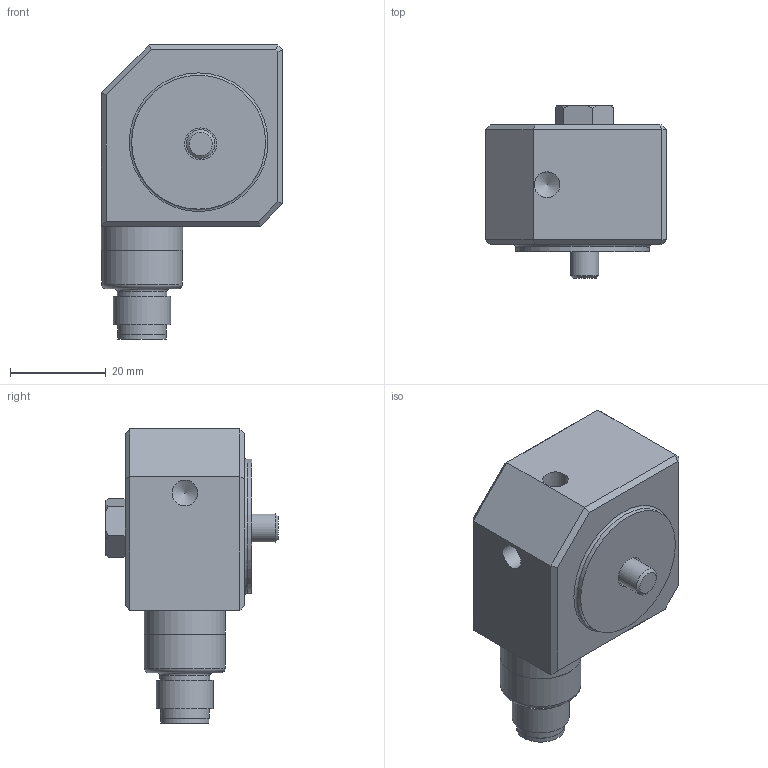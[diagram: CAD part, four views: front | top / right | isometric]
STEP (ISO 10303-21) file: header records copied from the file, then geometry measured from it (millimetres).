
FILE_DESCRIPTION(/* description */ (''),/* implementation_level */ '2;1');
FILE_NAME(/* name */ 'Z:\Engineering\Drawings\3D Library\Assemblies\Website\HS-183XXX5406.stp',/* time_stamp */ '2023-03-25T20:16:04+00:00',/* author */ ('Ricardo.Peneda'),/* organization */ (''),/* preprocessor_version */ 'ST-DEVELOPER v18.1',/* originating_system */ 'Autodesk Inventor 2021',/* authorisation */ '');
FILE_SCHEMA (('AUTOMOTIVE_DESIGN { 1 0 10303 214 3 1 1 }'));
Length unit declared in the file: inch
Products named in the file (1): HS-183xxx5406_Shrinkwrap_1
Bounding box: 37.9 x 36 x 61.5 mm (x, y, z)
Volume: 36230.4 mm3; surface area: 10527.9 mm2
Topology: 3 solids, 3 shells, 88 faces, 219 edges, 153 vertices
Faces by surface type: plane 54, cylinder 21, cone 10, torus 3
Full cylindrical faces by diameter (mm): 0.75 x4, 4.5 x1, 5.359 x2, 6 x1, 6.7 x1, 8.4 x1, 9.5 x1, 10.1 x1, 10.2 x1, 10.4 x1, 12 x1, 13.5 x1, 15 x2, 16.9 x1, 17 x1, 28 x1
Entity records: 2831 total; most frequent: DIRECTION 485, CARTESIAN_POINT 483, ORIENTED_EDGE 434, EDGE_CURVE 217, AXIS2_PLACEMENT_3D 191, VERTEX_POINT 153, EDGE_LOOP 108, LINE 103
